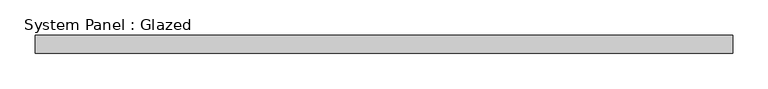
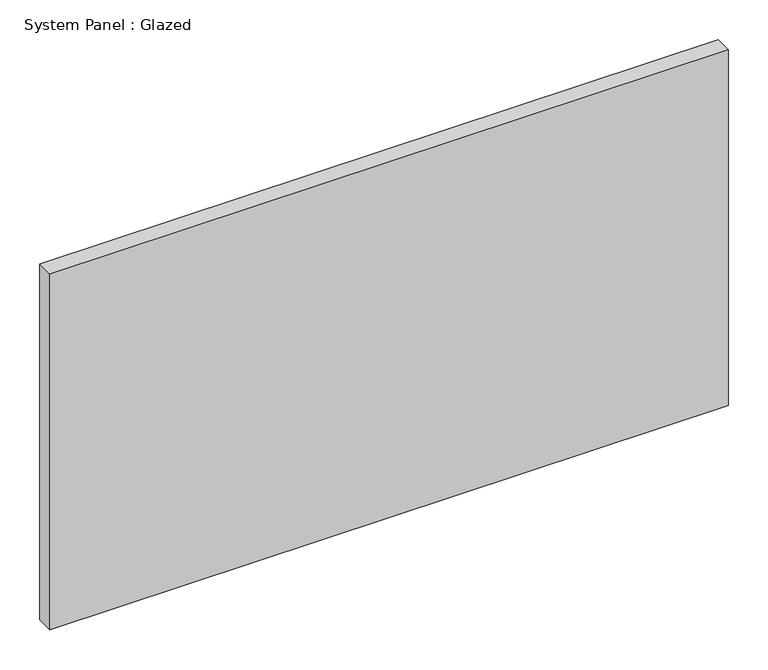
"""IFC4 building model written with IfcOpenShell, lengths in millimetres: plate geometry, System Panel : Glazed."""

import ifcopenshell
import ifcopenshell.guid

model = None  # the IFC model being written
_history = None  # IfcOwnerHistory: only IFC2X3 demands one
_inside = {}  # id of a spatial element -> (the spatial element, [elements in it])
_under = {}  # id of a project, library or spatial element -> (it, [spatial elements below it])
_declared = {}  # id of a project -> (the project, [libraries it declares])
_typed = {}  # id of a type object -> (the type object, [elements of that type])
_made_of = {}  # id of a material, layer set ... -> (it, [elements and type objects made of it])


def new_model(schema):
    """Start an empty IFC model of exactly this schema.

    Asked for "IFC4X3", IfcOpenShell would pick the latest addendum, in which some entities
    have other attributes; the version numbers below select the first issue.
    IFC2X3 requires an IfcOwnerHistory on every rooted entity: one is made here for all.
    """
    global model, _history
    if schema == "IFC4X3":
        model = ifcopenshell.file(schema_version=(4, 3, 0, 0))
    else:
        model = ifcopenshell.file(schema=schema)
    _inside.clear()
    _under.clear()
    _declared.clear()
    _typed.clear()
    _made_of.clear()
    _history = None
    if model.schema == "IFC2X3":
        org = make("IfcOrganization", Name="unknown")
        user = make(
            "IfcPersonAndOrganization",
            ThePerson=make("IfcPerson", FamilyName="unknown"),
            TheOrganization=org,
        )
        app = make(
            "IfcApplication",
            ApplicationDeveloper=org,
            Version="unknown",
            ApplicationFullName="unknown",
            ApplicationIdentifier="unknown",
        )
        _history = make(
            "IfcOwnerHistory",
            OwningUser=user,
            OwningApplication=app,
            ChangeAction="ADDED",
            CreationDate=0,
        )
    return model


def make(cls, **values):
    """One entity of the class cls with the attributes given. An attribute that is None is left unset."""
    return model.create_entity(
        cls, **{name: value for name, value in values.items() if value is not None}
    )


def rooted(cls, **values):
    """An entity with a GlobalId (a new one), such as an element, a storey or a relation."""
    return make(cls, GlobalId=ifcopenshell.guid.new(), OwnerHistory=_history, **values)


def si_unit(unit_type, name, prefix=None):
    """IfcSIUnit, for example si_unit("LENGTHUNIT", "METRE", prefix="MILLI")."""
    return make("IfcSIUnit", UnitType=unit_type, Prefix=prefix, Name=name)


def assignment(units):
    """IfcUnitAssignment: the units of a project."""
    return None if units is None else make("IfcUnitAssignment", Units=units)


def point(xyz):
    """IfcCartesianPoint."""
    return None if xyz is None else make("IfcCartesianPoint", Coordinates=xyz)


def direction(xyz):
    """IfcDirection."""
    return None if xyz is None else make("IfcDirection", DirectionRatios=xyz)


def frame(location, z_axis=None, x_axis=None):
    """IfcAxis2Placement3D, a coordinate frame: its origin and axes. An axis left out is left unset."""
    return make(
        "IfcAxis2Placement3D",
        Location=point(location),
        Axis=direction(z_axis),
        RefDirection=direction(x_axis),
    )


def origin():
    """The frame at (0, 0, 0) with its axes left unset."""
    return frame((0.0, 0.0, 0.0))


def origin_with_axes():
    """The frame at (0, 0, 0) with the z axis (0, 0, 1) and the x axis (1, 0, 0) written out."""
    return frame((0.0, 0.0, 0.0), z_axis=(0.0, 0.0, 1.0), x_axis=(1.0, 0.0, 0.0))


def place(relative_to, where):
    """IfcLocalPlacement: puts the frame where relative to a parent placement (None: the world)."""
    return make(
        "IfcLocalPlacement", PlacementRelTo=relative_to, RelativePlacement=where
    )


def context(
    kind, dimensions, precision=None, world=None, true_north=None, identifier=None
):
    """IfcGeometricRepresentationContext, for example the 3D "Model" context."""
    return make(
        "IfcGeometricRepresentationContext",
        ContextIdentifier=identifier,
        ContextType=kind,
        CoordinateSpaceDimension=dimensions,
        Precision=precision,
        WorldCoordinateSystem=world,
        TrueNorth=true_north,
    )


def project(units=None, contexts=None):
    """IfcProject with its units and contexts."""
    return rooted(
        "IfcProject",
        Name="project",
        RepresentationContexts=contexts,
        UnitsInContext=assignment(units),
    )


def spatial(cls, under=None, at=None, **own):
    """A site, building, storey or space (cls), placed at a placement, below another one or the project."""
    s = rooted(cls, ObjectPlacement=at, **own)
    if under is not None:
        _under.setdefault(under.id(), (under, []))[1].append(s)
    return s


def polyline(points):
    """IfcPolyline through the points."""
    return make("IfcPolyline", Points=[point(p) for p in points])


def outline(outer, holes=None, kind="AREA"):
    """IfcArbitraryClosedProfileDef: a profile drawn as a closed curve; with holes, ...WithVoids."""
    if holes is None:
        return make("IfcArbitraryClosedProfileDef", ProfileType=kind, OuterCurve=outer)
    return make(
        "IfcArbitraryProfileDefWithVoids",
        ProfileType=kind,
        OuterCurve=outer,
        InnerCurves=holes,
    )


def extrude(swept, where, along, depth):
    """IfcExtrudedAreaSolid: the profile swept, set in the frame where, extruded along a direction by depth."""
    return make(
        "IfcExtrudedAreaSolid",
        SweptArea=swept,
        Position=where,
        ExtrudedDirection=direction(along),
        Depth=depth,
    )


def shape(context_of_items, identifier, shape_type, items):
    """IfcShapeRepresentation: the items that make up one representation, for example the "Body"."""
    return make(
        "IfcShapeRepresentation",
        ContextOfItems=context_of_items,
        RepresentationIdentifier=identifier,
        RepresentationType=shape_type,
        Items=items,
    )


def source(mapping_origin, context_of_items, identifier, shape_type, items):
    """IfcRepresentationMap: a shape defined once, which mapped items show again and again."""
    return make(
        "IfcRepresentationMap",
        MappingOrigin=mapping_origin,
        MappedRepresentation=shape(context_of_items, identifier, shape_type, items),
    )


def transform(
    local_origin,
    x_axis=None,
    y_axis=None,
    z_axis=None,
    scale=None,
    scale2=None,
    scale3=None,
    uniform=True,
):
    """IfcCartesianTransformationOperator3D, or its non-uniform kind. x_axis, y_axis, z_axis: its Axis1, 2, 3."""
    if uniform:
        return make(
            "IfcCartesianTransformationOperator3D",
            Axis1=direction(x_axis),
            Axis2=direction(y_axis),
            LocalOrigin=point(local_origin),
            Scale=scale,
            Axis3=direction(z_axis),
        )
    return make(
        "IfcCartesianTransformationOperator3DnonUniform",
        Axis1=direction(x_axis),
        Axis2=direction(y_axis),
        LocalOrigin=point(local_origin),
        Scale=scale,
        Axis3=direction(z_axis),
        Scale2=scale2,
        Scale3=scale3,
    )


def mapped(mapping_source, mapping_target):
    """IfcMappedItem: shows the shape of a source again, moved by a transform."""
    return make(
        "IfcMappedItem", MappingSource=mapping_source, MappingTarget=mapping_target
    )


def made_of(thing, what):
    """Note that an element or type object is made of a material, layer set ...; save() writes the relation."""
    if what is not None:
        _made_of.setdefault(what.id(), (what, []))[1].append(thing)
    return thing


def element(
    cls,
    number,
    at=None,
    inside=None,
    cuts=None,
    type_object=None,
    material=None,
    context=None,
    identifier="Body",
    shape_type=None,
    held_by="IfcProductDefinitionShape",
    body=None,
    shapes=None,
    **own,
):
    """One element of the class cls, such as IfcWall. Its Tag is "e" and its number.

    at: its placement. inside: the storey or other place that contains it. cuts: it is an
    opening in that element (IfcRelVoidsElement). A single representation is given by context,
    identifier, shape_type and body (its items); several are given by shapes. held_by: the class
    of the entity that holds the representations. save() writes the other relations.
    """
    e = rooted(cls, Tag="e%d" % number, ObjectPlacement=at, **own)
    if body is not None:
        shapes = [shape(context, identifier, shape_type, body)]
    if shapes is not None:
        e.Representation = make(held_by, Representations=shapes)
    if inside is not None:
        _inside.setdefault(inside.id(), (inside, []))[1].append(e)
    if cuts is not None:
        rooted(
            "IfcRelVoidsElement", RelatingBuildingElement=cuts, RelatedOpeningElement=e
        )
    if type_object is not None:
        _typed.setdefault(type_object.id(), (type_object, []))[1].append(e)
    return made_of(e, material)


def aggregate(whole, parts):
    """IfcRelAggregates: a whole, such as a stair, and the parts it consists of."""
    return rooted("IfcRelAggregates", RelatingObject=whole, RelatedObjects=parts)


def save(model, path):
    """Write the relations noted so far, then the file.

    IfcRelAggregates (storeys below a building ...), IfcRelContainedInSpatialStructure (elements
    in a storey), IfcRelDefinesByType, IfcRelAssociatesMaterial and IfcRelDeclares: one each for
    every whole, place, type object, material and project.
    """
    for whole, parts in _under.values():
        aggregate(whole, parts)
    for where, things in _inside.values():
        rooted(
            "IfcRelContainedInSpatialStructure",
            RelatedElements=things,
            RelatingStructure=where,
        )
    for kind, things in _typed.values():
        rooted("IfcRelDefinesByType", RelatedObjects=things, RelatingType=kind)
    for what, things in _made_of.values():
        rooted("IfcRelAssociatesMaterial", RelatedObjects=things, RelatingMaterial=what)
    for by, libraries in _declared.values():
        rooted("IfcRelDeclares", RelatingContext=by, RelatedDefinitions=libraries)
    model.write(path)


def system_panel_glazed_677bec21(model_context):
    return source(origin(), model_context, "Body", "SweptSolid", [
        extrude(outline(polyline([(492.125, 19.05), (-492.125, 19.05), (-492.125, 44.45), (492.125, 44.45), (492.125, 19.05)])), origin_with_axes(), (0.0, 0.0, 1.0), 546.1),
    ])


if __name__ == "__main__":
    model = new_model("IFC4")
    model_context = context("Model", 3, world=origin())
    ifc_project = project(units=[si_unit("LENGTHUNIT", "METRE", prefix="MILLI")], contexts=[model_context])
    site = spatial("IfcSite", under=ifc_project)
    building = spatial("IfcBuilding", under=site)
    placement = place(None, origin())
    system_panel_glazed_shape = system_panel_glazed_677bec21(model_context)
    element("IfcPlate", 1, ObjectType="System Panel : Glazed", at=placement, inside=building, context=model_context, shape_type="MappedRepresentation", body=[
        mapped(system_panel_glazed_shape, transform((0.0, 0.0, 0.0), x_axis=(1.0, 0.0, 0.0), y_axis=(0.0, 1.0, 0.0), z_axis=(0.0, 0.0, 1.0))),
    ])
    save(model, "model.ifc")
